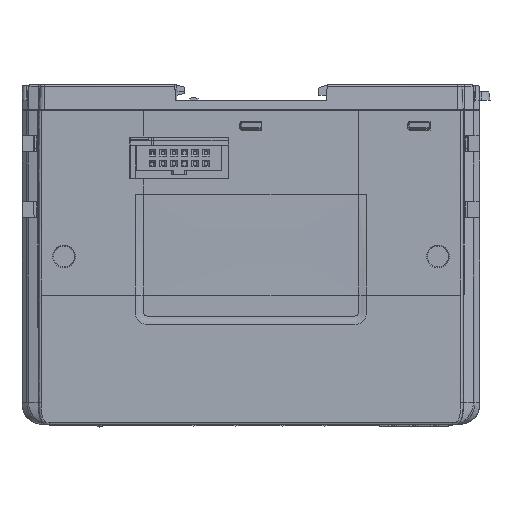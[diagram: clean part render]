
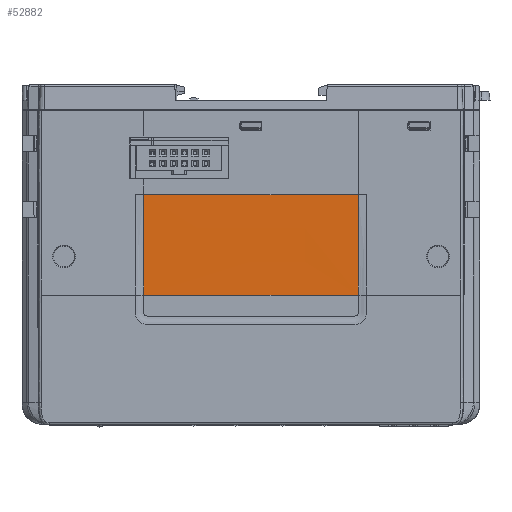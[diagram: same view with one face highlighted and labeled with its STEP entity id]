
A CAD part, top view. The second image highlights one B-rep face of the part: STEP entity #52882.
In plain terms, the highlighted free-form (B-spline) face has degree [3, 3] with [7, 4] control points.
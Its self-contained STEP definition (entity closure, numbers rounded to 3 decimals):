
#4077 = CARTESIAN_POINT ( 'NONE',  ( -25.537, -31.959, 13.35 ) ) ;
#4831 = CARTESIAN_POINT ( 'NONE',  ( -21.28, -35.945, 13.2 ) ) ;
#5338 = CARTESIAN_POINT ( 'NONE',  ( 12.768, -27.973, 13.5 ) ) ;
#8325 = CARTESIAN_POINT ( 'NONE',  ( 25.537, -35.945, 13.2 ) ) ;
#11161 = VERTEX_POINT ( 'NONE', #21841 ) ;
#12680 = CARTESIAN_POINT ( 'NONE',  ( -25.537, -27.973, 13.5 ) ) ;
#13182 = CARTESIAN_POINT ( 'NONE',  ( 0., -20., 13.5 ) ) ;
#14087 = B_SPLINE_CURVE_WITH_KNOTS ( 'NONE', 3,
 ( #44047, #76291, #4077, #36094, #68373 ),
 .UNSPECIFIED., .F., .F.,
 ( 4, 1, 4 ),
 ( 0., 0.5, 1. ),
 .UNSPECIFIED. ) ;
#17101 = DIRECTION ( 'NONE',  ( 1., 0., 0. ) ) ;
#21053 = CARTESIAN_POINT ( 'NONE',  ( 0., -43.918, 13.2 ) ) ;
#21556 = CARTESIAN_POINT ( 'NONE',  ( 25.537, -35.945, 13.2 ) ) ;
#21841 = CARTESIAN_POINT ( 'NONE',  ( 25.537, -20., 13.5 ) ) ;
#24299 = ORIENTED_EDGE ( 'NONE', *, *, #63644, .F. ) ;
#26443 = DIRECTION ( 'NONE',  ( 1., 0., 0. ) ) ;
#26671 = VERTEX_POINT ( 'NONE', #103220 ) ;
#26688 = VERTEX_POINT ( 'NONE', #87435 ) ;
#28919 = CARTESIAN_POINT ( 'NONE',  ( -12.768, -35.945, 13.2 ) ) ;
#29435 = CARTESIAN_POINT ( 'NONE',  ( 21.28, -27.973, 13.5 ) ) ;
#36094 = CARTESIAN_POINT ( 'NONE',  ( -25.537, -23.987, 13.5 ) ) ;
#36892 = CARTESIAN_POINT ( 'NONE',  ( -21.28, -27.973, 13.5 ) ) ;
#37392 = CARTESIAN_POINT ( 'NONE',  ( 12.768, -20., 13.5 ) ) ;
#37500 = VECTOR ( 'NONE', #17101, 1000. ) ;
#40395 = CARTESIAN_POINT ( 'NONE',  ( 25.537, -27.973, 13.5 ) ) ;
#44047 = CARTESIAN_POINT ( 'NONE',  ( -25.537, -43.918, 13.2 ) ) ;
#44814 = CARTESIAN_POINT ( 'NONE',  ( -25.537, -20., 13.5 ) ) ;
#45350 = CARTESIAN_POINT ( 'NONE',  ( 12.768, -43.918, 13.2 ) ) ;
#49995 = EDGE_CURVE ( 'NONE', #26671, #26688, #57249, .T. ) ;
#52882 = ADVANCED_FACE ( 'NONE', ( #68092 ), #72022, .T. ) ;
#53289 = CARTESIAN_POINT ( 'NONE',  ( 0., -35.945, 13.2 ) ) ;
#53454 = EDGE_LOOP ( 'NONE', ( #73914, #53743, #67239, #24299 ) ) ;
#53743 = ORIENTED_EDGE ( 'NONE', *, *, #75877, .T. ) ;
#53815 = CARTESIAN_POINT ( 'NONE',  ( 25.537, -27.973, 13.5 ) ) ;
#57249 = LINE ( 'NONE', #89409, #37500 ) ;
#61212 = CARTESIAN_POINT ( 'NONE',  ( -12.768, -27.973, 13.5 ) ) ;
#61717 = CARTESIAN_POINT ( 'NONE',  ( 21.28, -20., 13.5 ) ) ;
#63644 = EDGE_CURVE ( 'NONE', #26671, #96781, #14087, .T. ) ;
#66634 = CARTESIAN_POINT ( 'NONE',  ( -25.537, -20., 13.5 ) ) ;
#66645 = LINE ( 'NONE', #98763, #87248 ) ;
#67239 = ORIENTED_EDGE ( 'NONE', *, *, #70910, .F. ) ;
#68092 = FACE_OUTER_BOUND ( 'NONE', #53454, .T. ) ;
#68373 = CARTESIAN_POINT ( 'NONE',  ( -25.537, -20., 13.5 ) ) ;
#69145 = CARTESIAN_POINT ( 'NONE',  ( -21.28, -20., 13.5 ) ) ;
#69649 = CARTESIAN_POINT ( 'NONE',  ( 21.28, -43.918, 13.2 ) ) ;
#70910 = EDGE_CURVE ( 'NONE', #96781, #11161, #66645, .T. ) ;
#72022 = B_SPLINE_SURFACE_WITH_KNOTS ( 'NONE', 3, 3, ( 
 ( #100240, #84962, #12680, #44814 ),
 ( #77077, #4831, #36892, #69145 ),
 ( #101260, #28919, #61212, #93371 ),
 ( #21053, #53289, #85487, #13182 ),
 ( #45350, #77589, #5338, #37392 ),
 ( #69649, #101775, #29435, #61717 ),
 ( #93885, #21556, #53815, #85989 ) ),
 .UNSPECIFIED., .F., .F., .F.,
 ( 4, 1, 1, 1, 4 ),
 ( 4, 4 ),
 ( 0., 0.25, 0.5, 0.75, 1. ),
 ( 0., 1. ),
 .UNSPECIFIED. ) ;
#72627 = CARTESIAN_POINT ( 'NONE',  ( 25.537, -20., 13.5 ) ) ;
#73914 = ORIENTED_EDGE ( 'NONE', *, *, #49995, .T. ) ;
#75877 = EDGE_CURVE ( 'NONE', #26688, #11161, #95027, .T. ) ;
#76291 = CARTESIAN_POINT ( 'NONE',  ( -25.537, -39.932, 13.2 ) ) ;
#77077 = CARTESIAN_POINT ( 'NONE',  ( -21.28, -43.918, 13.2 ) ) ;
#77589 = CARTESIAN_POINT ( 'NONE',  ( 12.768, -35.945, 13.2 ) ) ;
#80568 = CARTESIAN_POINT ( 'NONE',  ( 25.537, -43.918, 13.2 ) ) ;
#84962 = CARTESIAN_POINT ( 'NONE',  ( -25.537, -35.945, 13.2 ) ) ;
#85487 = CARTESIAN_POINT ( 'NONE',  ( 0., -27.973, 13.5 ) ) ;
#85989 = CARTESIAN_POINT ( 'NONE',  ( 25.537, -20., 13.5 ) ) ;
#87248 = VECTOR ( 'NONE', #26443, 1000. ) ;
#87435 = CARTESIAN_POINT ( 'NONE',  ( 25.537, -43.918, 13.2 ) ) ;
#89409 = CARTESIAN_POINT ( 'NONE',  ( 0., -43.918, 13.2 ) ) ;
#93371 = CARTESIAN_POINT ( 'NONE',  ( -12.768, -20., 13.5 ) ) ;
#93885 = CARTESIAN_POINT ( 'NONE',  ( 25.537, -43.918, 13.2 ) ) ;
#95027 = B_SPLINE_CURVE_WITH_KNOTS ( 'NONE', 3,
 ( #80568, #8325, #40395, #72627 ),
 .UNSPECIFIED., .F., .F.,
 ( 4, 4 ),
 ( 0., 1. ),
 .UNSPECIFIED. ) ;
#96781 = VERTEX_POINT ( 'NONE', #66634 ) ;
#98763 = CARTESIAN_POINT ( 'NONE',  ( -48., -20., 13.5 ) ) ;
#100240 = CARTESIAN_POINT ( 'NONE',  ( -25.537, -43.918, 13.2 ) ) ;
#101260 = CARTESIAN_POINT ( 'NONE',  ( -12.768, -43.918, 13.2 ) ) ;
#101775 = CARTESIAN_POINT ( 'NONE',  ( 21.28, -35.945, 13.2 ) ) ;
#103220 = CARTESIAN_POINT ( 'NONE',  ( -25.537, -43.918, 13.2 ) ) ;
